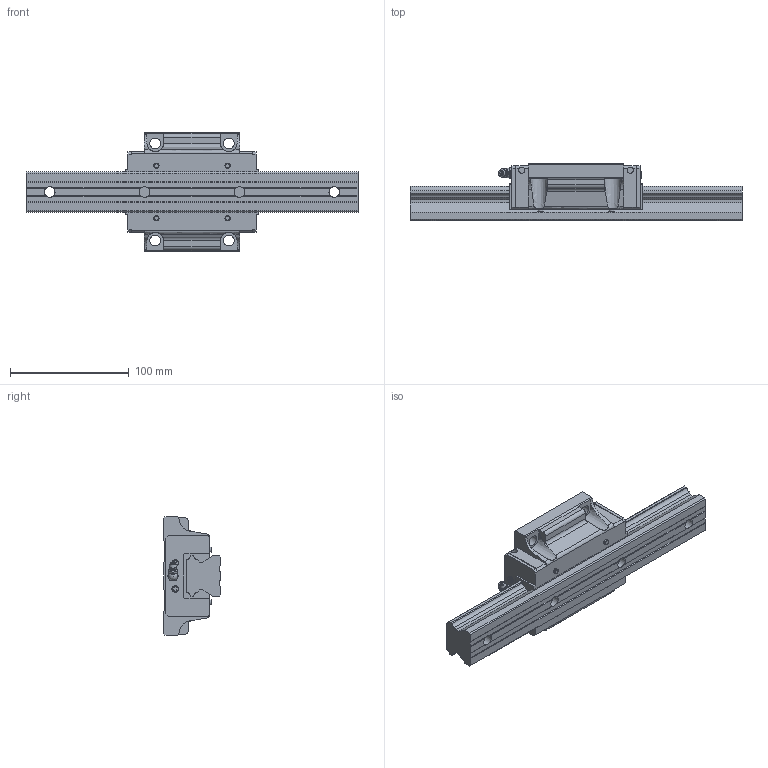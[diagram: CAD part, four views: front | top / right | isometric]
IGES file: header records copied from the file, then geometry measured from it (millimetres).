
Start section: Data from Parasolid IGES Translator 26.0.171, Copyright(c) 2006 Siemens PLM Software. All Rights Reserved.
Global section: file name: HSR35M1B1SS-280L_G20_0_B-M6F_84_0_0_0.igs; native system: By Siemens PLM Incorporated; preprocessor: XPlus GENERIC/IGES 26.0.171; author: Noname; organization: Noname; date: 20240523.061422; units: millimetre
Bounding box: 280 x 48 x 100 mm (x, y, z)
Surface area: 82667.7 mm2 (no closed solid volume)
Topology: 0 solids, 0 shells, 305 faces, 1662 edges, 1600 vertices
Faces by surface type: extrusion 222, revolution 83
